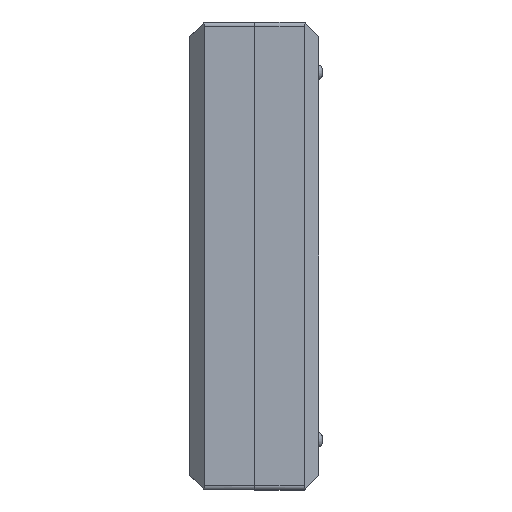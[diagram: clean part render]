
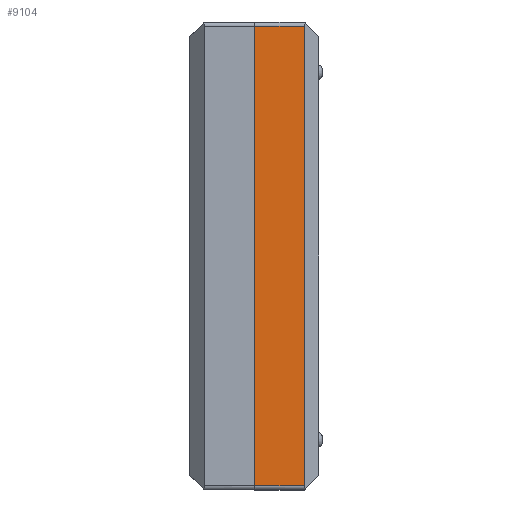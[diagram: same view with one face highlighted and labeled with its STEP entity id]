
A CAD part, left-side view. The second image highlights one B-rep face of the part: STEP entity #9104.
In plain terms, the highlighted planar face has unit normal (-1, 0, 0).
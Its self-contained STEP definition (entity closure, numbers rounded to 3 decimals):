
#1390 = EDGE_CURVE ( 'NONE', #7797, #10165, #1498, .T. ) ;
#1498 = LINE ( 'NONE', #9844, #14296 ) ;
#2295 = DIRECTION ( 'NONE',  ( 0., 0., 1. ) ) ;
#3162 = ORIENTED_EDGE ( 'NONE', *, *, #9848, .T. ) ;
#3171 = PLANE ( 'NONE',  #9571 ) ;
#3184 = CARTESIAN_POINT ( 'NONE',  ( -100., 0., -56. ) ) ;
#3575 = VECTOR ( 'NONE', #9150, 1000. ) ;
#3759 = VERTEX_POINT ( 'NONE', #12468 ) ;
#3992 = EDGE_CURVE ( 'NONE', #12780, #3759, #13903, .T. ) ;
#5030 = ORIENTED_EDGE ( 'NONE', *, *, #1390, .T. ) ;
#5294 = CARTESIAN_POINT ( 'NONE',  ( -100., -11.9, -55. ) ) ;
#5443 = CARTESIAN_POINT ( 'NONE',  ( -100., -15.4, 55. ) ) ;
#5923 = DIRECTION ( 'NONE',  ( 0., -1., 0. ) ) ;
#6142 = EDGE_CURVE ( 'NONE', #10165, #3759, #11617, .T. ) ;
#6786 = DIRECTION ( 'NONE',  ( 0., 0., 1. ) ) ;
#7797 = VERTEX_POINT ( 'NONE', #5294 ) ;
#8880 = CARTESIAN_POINT ( 'NONE',  ( -100., -11.9, 55. ) ) ;
#9104 = ADVANCED_FACE ( 'NONE', ( #12416 ), #3171, .T. ) ;
#9150 = DIRECTION ( 'NONE',  ( 0., 0., 1. ) ) ;
#9571 = AXIS2_PLACEMENT_3D ( 'NONE', #11567, #13978, #6786 ) ;
#9844 = CARTESIAN_POINT ( 'NONE',  ( -100., -11.9, 56. ) ) ;
#9848 = EDGE_CURVE ( 'NONE', #12780, #7797, #12200, .T. ) ;
#10165 = VERTEX_POINT ( 'NONE', #8880 ) ;
#10191 = ORIENTED_EDGE ( 'NONE', *, *, #3992, .F. ) ;
#11459 = VECTOR ( 'NONE', #5923, 1000. ) ;
#11567 = CARTESIAN_POINT ( 'NONE',  ( -100., -15.4, -56. ) ) ;
#11617 = LINE ( 'NONE', #5443, #14806 ) ;
#11923 = CARTESIAN_POINT ( 'NONE',  ( -100., -15.4, -55. ) ) ;
#12200 = LINE ( 'NONE', #11923, #11459 ) ;
#12416 = FACE_OUTER_BOUND ( 'NONE', #14562, .T. ) ;
#12468 = CARTESIAN_POINT ( 'NONE',  ( -100., 0., 55. ) ) ;
#12652 = DIRECTION ( 'NONE',  ( 0., 1., 0. ) ) ;
#12780 = VERTEX_POINT ( 'NONE', #13982 ) ;
#12921 = ORIENTED_EDGE ( 'NONE', *, *, #6142, .T. ) ;
#13903 = LINE ( 'NONE', #3184, #3575 ) ;
#13978 = DIRECTION ( 'NONE',  ( -1., 0., 0. ) ) ;
#13982 = CARTESIAN_POINT ( 'NONE',  ( -100., 0., -55. ) ) ;
#14296 = VECTOR ( 'NONE', #2295, 1000. ) ;
#14562 = EDGE_LOOP ( 'NONE', ( #10191, #3162, #5030, #12921 ) ) ;
#14806 = VECTOR ( 'NONE', #12652, 1000. ) ;
